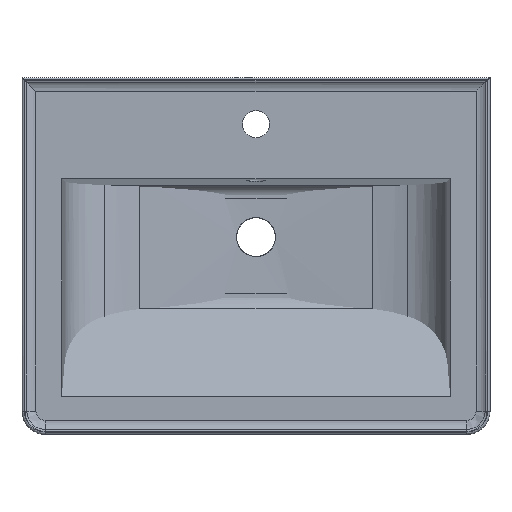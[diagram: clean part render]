
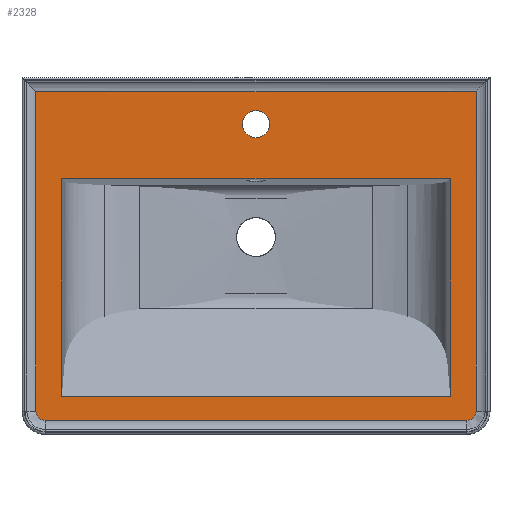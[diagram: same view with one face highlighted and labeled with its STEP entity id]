
A CAD part, top view. The second image highlights one B-rep face of the part: STEP entity #2328.
In plain terms, the highlighted planar face has unit normal (0, 0, 1).
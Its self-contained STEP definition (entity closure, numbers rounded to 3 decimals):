
#2328 = ADVANCED_FACE('',(#2329,#2381,#2401),#2435,.T.);
#2329 = FACE_BOUND('',#2330,.T.);
#2330 = EDGE_LOOP('',(#2331,#2341,#2349,#2357,#2366,#2374));
#2331 = ORIENTED_EDGE('',*,*,#2332,.F.);
#2332 = EDGE_CURVE('',#2333,#2335,#2337,.T.);
#2333 = VERTEX_POINT('',#2334);
#2334 = CARTESIAN_POINT('',(282.918,186.997,
    45.));
#2335 = VERTEX_POINT('',#2336);
#2336 = CARTESIAN_POINT('',(282.918,-223.921,
    45.));
#2337 = LINE('',#2338,#2339);
#2338 = CARTESIAN_POINT('',(282.918,186.997,
    45.));
#2339 = VECTOR('',#2340,1.);
#2340 = DIRECTION('',(0.,-1.,0.));
#2341 = ORIENTED_EDGE('',*,*,#2342,.T.);
#2342 = EDGE_CURVE('',#2333,#2343,#2345,.T.);
#2343 = VERTEX_POINT('',#2344);
#2344 = CARTESIAN_POINT('',(-282.918,186.997,
    45.));
#2345 = LINE('',#2346,#2347);
#2346 = CARTESIAN_POINT('',(-282.918,186.997,
    45.));
#2347 = VECTOR('',#2348,1.);
#2348 = DIRECTION('',(-1.,0.,0.));
#2349 = ORIENTED_EDGE('',*,*,#2350,.F.);
#2350 = EDGE_CURVE('',#2351,#2343,#2353,.T.);
#2351 = VERTEX_POINT('',#2352);
#2352 = CARTESIAN_POINT('',(-282.918,-223.921,
    45.));
#2353 = LINE('',#2354,#2355);
#2354 = CARTESIAN_POINT('',(-282.918,-223.921,
    45.));
#2355 = VECTOR('',#2356,1.);
#2356 = DIRECTION('',(0.,1.,0.));
#2357 = ORIENTED_EDGE('',*,*,#2358,.F.);
#2358 = EDGE_CURVE('',#2359,#2351,#2361,.T.);
#2359 = VERTEX_POINT('',#2360);
#2360 = CARTESIAN_POINT('',(-270.918,-235.921,
    45.));
#2361 = CIRCLE('',#2362,12.);
#2362 = AXIS2_PLACEMENT_3D('',#2363,#2364,#2365);
#2363 = CARTESIAN_POINT('',(-270.918,-223.921,
    45.));
#2364 = DIRECTION('',(0.,0.,-1.));
#2365 = DIRECTION('',(0.,-1.,0.));
#2366 = ORIENTED_EDGE('',*,*,#2367,.F.);
#2367 = EDGE_CURVE('',#2368,#2359,#2370,.T.);
#2368 = VERTEX_POINT('',#2369);
#2369 = CARTESIAN_POINT('',(270.918,-235.921,
    45.));
#2370 = LINE('',#2371,#2372);
#2371 = CARTESIAN_POINT('',(270.918,-235.921,
    45.));
#2372 = VECTOR('',#2373,1.);
#2373 = DIRECTION('',(-1.,0.,0.));
#2374 = ORIENTED_EDGE('',*,*,#2375,.F.);
#2375 = EDGE_CURVE('',#2335,#2368,#2376,.T.);
#2376 = CIRCLE('',#2377,12.);
#2377 = AXIS2_PLACEMENT_3D('',#2378,#2379,#2380);
#2378 = CARTESIAN_POINT('',(270.918,-223.921,
    45.));
#2379 = DIRECTION('',(0.,0.,-1.));
#2380 = DIRECTION('',(1.,0.,0.));
#2381 = FACE_BOUND('',#2382,.T.);
#2382 = EDGE_LOOP('',(#2383,#2394));
#2383 = ORIENTED_EDGE('',*,*,#2384,.T.);
#2384 = EDGE_CURVE('',#2385,#2387,#2389,.T.);
#2385 = VERTEX_POINT('',#2386);
#2386 = CARTESIAN_POINT('',(17.5,144.997,
    45.));
#2387 = VERTEX_POINT('',#2388);
#2388 = CARTESIAN_POINT('',(-17.5,144.997,
    45.));
#2389 = CIRCLE('',#2390,17.5);
#2390 = AXIS2_PLACEMENT_3D('',#2391,#2392,#2393);
#2391 = CARTESIAN_POINT('',(0.,144.997,
    45.));
#2392 = DIRECTION('',(0.,0.,-1.));
#2393 = DIRECTION('',(1.,0.,0.));
#2394 = ORIENTED_EDGE('',*,*,#2395,.T.);
#2395 = EDGE_CURVE('',#2387,#2385,#2396,.T.);
#2396 = CIRCLE('',#2397,17.5);
#2397 = AXIS2_PLACEMENT_3D('',#2398,#2399,#2400);
#2398 = CARTESIAN_POINT('',(0.,144.997,
    45.));
#2399 = DIRECTION('',(0.,0.,-1.));
#2400 = DIRECTION('',(1.,0.,0.));
#2401 = FACE_BOUND('',#2402,.T.);
#2402 = EDGE_LOOP('',(#2403,#2413,#2421,#2429));
#2403 = ORIENTED_EDGE('',*,*,#2404,.T.);
#2404 = EDGE_CURVE('',#2405,#2407,#2409,.T.);
#2405 = VERTEX_POINT('',#2406);
#2406 = CARTESIAN_POINT('',(249.961,-205.205,
    45.));
#2407 = VERTEX_POINT('',#2408);
#2408 = CARTESIAN_POINT('',(-249.961,-205.205,
    45.));
#2409 = LINE('',#2410,#2411);
#2410 = CARTESIAN_POINT('',(249.961,-205.205,
    45.));
#2411 = VECTOR('',#2412,1.);
#2412 = DIRECTION('',(-1.,0.,0.));
#2413 = ORIENTED_EDGE('',*,*,#2414,.T.);
#2414 = EDGE_CURVE('',#2407,#2415,#2417,.T.);
#2415 = VERTEX_POINT('',#2416);
#2416 = CARTESIAN_POINT('',(-249.961,75.115,
    45.));
#2417 = LINE('',#2418,#2419);
#2418 = CARTESIAN_POINT('',(-249.961,-205.205,
    45.));
#2419 = VECTOR('',#2420,1.);
#2420 = DIRECTION('',(0.,1.,0.));
#2421 = ORIENTED_EDGE('',*,*,#2422,.T.);
#2422 = EDGE_CURVE('',#2415,#2423,#2425,.T.);
#2423 = VERTEX_POINT('',#2424);
#2424 = CARTESIAN_POINT('',(249.961,75.115,
    45.));
#2425 = LINE('',#2426,#2427);
#2426 = CARTESIAN_POINT('',(-249.961,75.115,
    45.));
#2427 = VECTOR('',#2428,1.);
#2428 = DIRECTION('',(1.,0.,0.));
#2429 = ORIENTED_EDGE('',*,*,#2430,.T.);
#2430 = EDGE_CURVE('',#2423,#2405,#2431,.T.);
#2431 = LINE('',#2432,#2433);
#2432 = CARTESIAN_POINT('',(249.961,75.115,
    45.));
#2433 = VECTOR('',#2434,1.);
#2434 = DIRECTION('',(0.,-1.,0.));
#2435 = PLANE('',#2436);
#2436 = AXIS2_PLACEMENT_3D('',#2437,#2438,#2439);
#2437 = CARTESIAN_POINT('',(263.,-228.921,
    45.));
#2438 = DIRECTION('',(0.,0.,1.));
#2439 = DIRECTION('',(0.,1.,0.));
